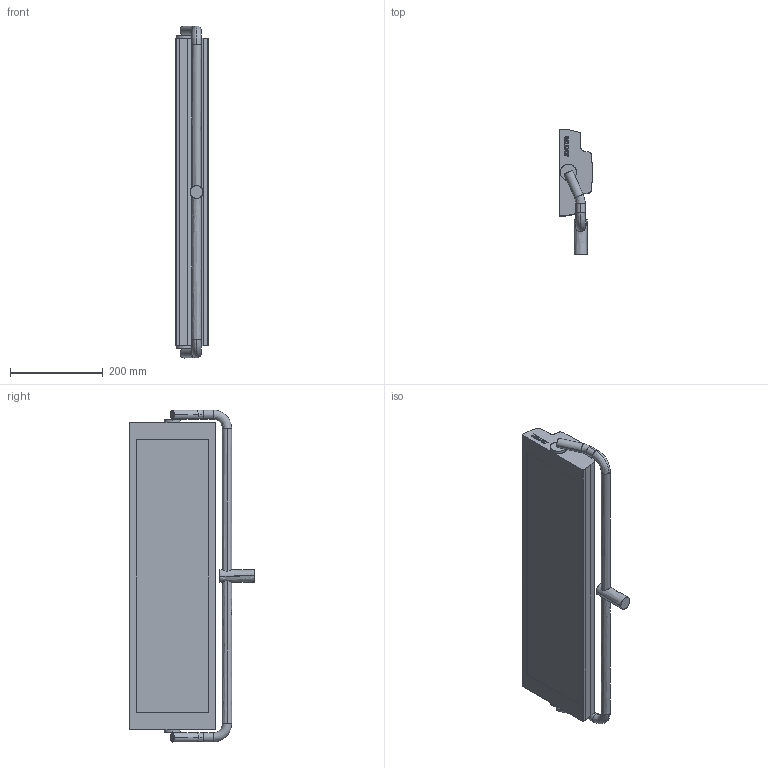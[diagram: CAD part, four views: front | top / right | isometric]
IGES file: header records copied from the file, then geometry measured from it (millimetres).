
Start section: SolidWorks IGES file using analytic representation for surfaces
Global section: file name: C:\Users\Eddy\Desktop\MINI 2 ST.IGS; native system: SolidWorks 2023; preprocessor: SolidWorks 2023; author: Eddy; date: 240715.150151; units: millimetre
Bounding box: 70.41 x 271.29 x 717 mm (x, y, z)
Surface area: 407441.6 mm2 (no closed solid volume)
Topology: 0 solids, 0 shells, 292 faces, 3782 edges, 3782 vertices
Faces by surface type: bspline 262, revolution 30
